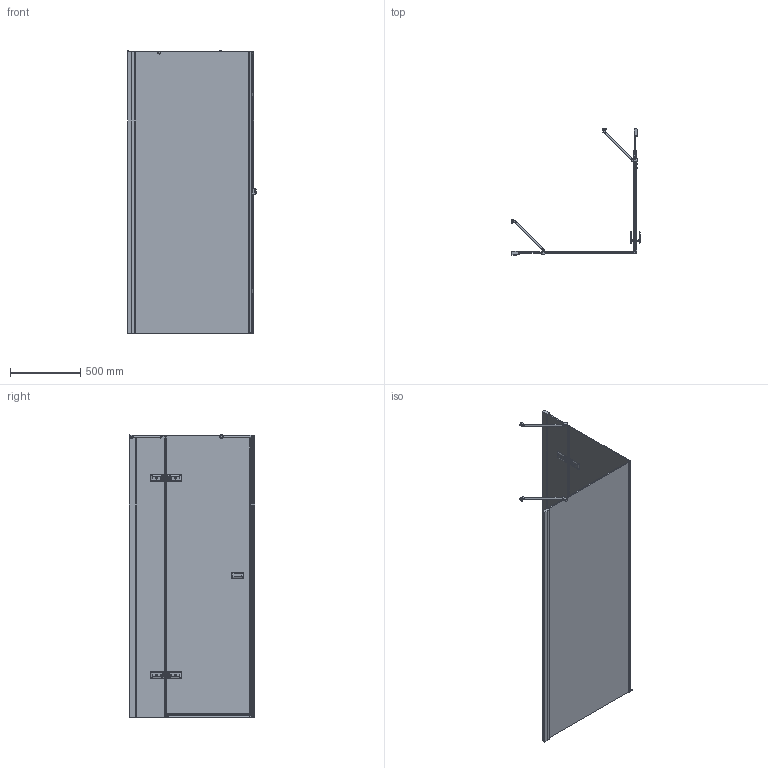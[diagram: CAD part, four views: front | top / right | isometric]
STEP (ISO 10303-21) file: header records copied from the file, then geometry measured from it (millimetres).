
FILE_DESCRIPTION(/* description */ (''),/* implementation_level */ '2;1');
FILE_NAME(/* name */ 'E:\Работа\Сергей\Душевые кабинки\! Работа\TREND SQUARE GK-863PONE\TREND SQUARE GK-863PONE правая модель\TREND SQUARE GK-863PONE ПРАВАЯ-3D.stp',/* time_stamp */ '2017-08-09T21:01:52+03:00',/* author */ ('PC'),/* organization */ (''),/* preprocessor_version */ 'ST-DEVELOPER v15.2',/* originating_system */ 'Autodesk Inventor 2014',/* authorisation */ '');
FILE_SCHEMA (('AUTOMOTIVE_DESIGN { 1 0 10303 214 3 1 1 }'));
Products named in the file (1): TREND SQUARE GK-863PONE ПРАВАЯ-
3D
Bounding box: 912.64 x 893.94 x 2009.49 mm (x, y, z)
Volume: 29584807.2 mm3; surface area: 7448374.9 mm2
Topology: 7 solids, 7 shells, 1384 faces, 3648 edges, 2258 vertices
Faces by surface type: plane 853, cylinder 329, bspline 140, torus 33, cone 18, sphere 11
Full cylindrical faces by diameter (mm): 6 x2, 9 x8, 13 x2, 15 x2, 20 x4, 26 x2
Entity records: 59651 total; most frequent: CARTESIAN_POINT 24923, ORIENTED_EDGE 7106, DIRECTION 6713, EDGE_CURVE 3553, AXIS2_PLACEMENT_3D 2248, VERTEX_POINT 2238, LINE 2217, VECTOR 2217
